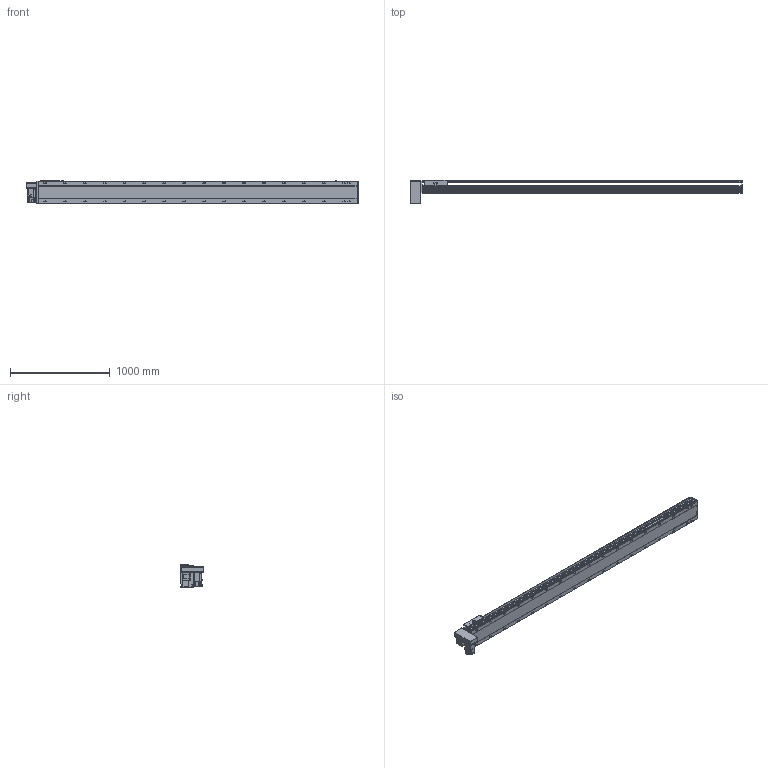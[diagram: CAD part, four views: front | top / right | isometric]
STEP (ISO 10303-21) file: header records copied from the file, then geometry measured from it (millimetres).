
FILE_DESCRIPTION(/* description */ ('STEP AP214'),/* implementation_level */ '2;1');
FILE_NAME(/* name */ 'PBS220-P40-S2850-RD-T75-C1-N(0)',/* time_stamp */ '2022-06-13T02:47:21+02:00',/* author */ ('License CC BY-ND 4.0'),/* organization */ ('CADENAS'),/* preprocessor_version */ 'ST-DEVELOPER v18.102',/* originating_system */ 'PARTsolutions',/* authorisation */ ' ');
FILE_SCHEMA (('AUTOMOTIVE_DESIGN {1 0 10303 214 3 1 1}'));
Length unit declared in the file: millimetre
Products named in the file (7): PBS220-P40-S2850-RD-T75-C1-N(0); PBS220_sensor; PBS220_plant; PBS220_sliser; T75-p1; PBS220T-RD_motors; PBS220-S2850()_body
Assembly tree (8 placements, depth 2):
  PBS220-P40-S2850-RD-T75-C1-N(0)
    PBS220_sensor  x3
    PBS220_plant
    PBS220_sliser
    T75-p1
    PBS220T-RD_motors
    PBS220-S2850()_body
Bounding box: 3334 x 239 x 238.5 mm (x, y, z)
Volume: 46366034.8 mm3; surface area: 4222438.8 mm2
Topology: 8 solids, 8 shells, 1022 faces, 2648 edges, 1720 vertices
Faces by surface type: plane 634, cylinder 330, cone 58
Full cylindrical faces by diameter (mm): 2.013 x4, 4.5 x14, 4.917 x4, 6 x7, 6.647 x8, 8 x10, 8.376 x34, 8.5 x34, 10 x6, 14 x34, 38 x2, 40 x1, 70 x1
Entity records: 28437 total; most frequent: CARTESIAN_POINT 5086, DIRECTION 4941, ORIENTED_EDGE 4430, EDGE_CURVE 2215, AXIS2_PLACEMENT_3D 1789, VERTEX_POINT 1560, LINE 1363, VECTOR 1363
